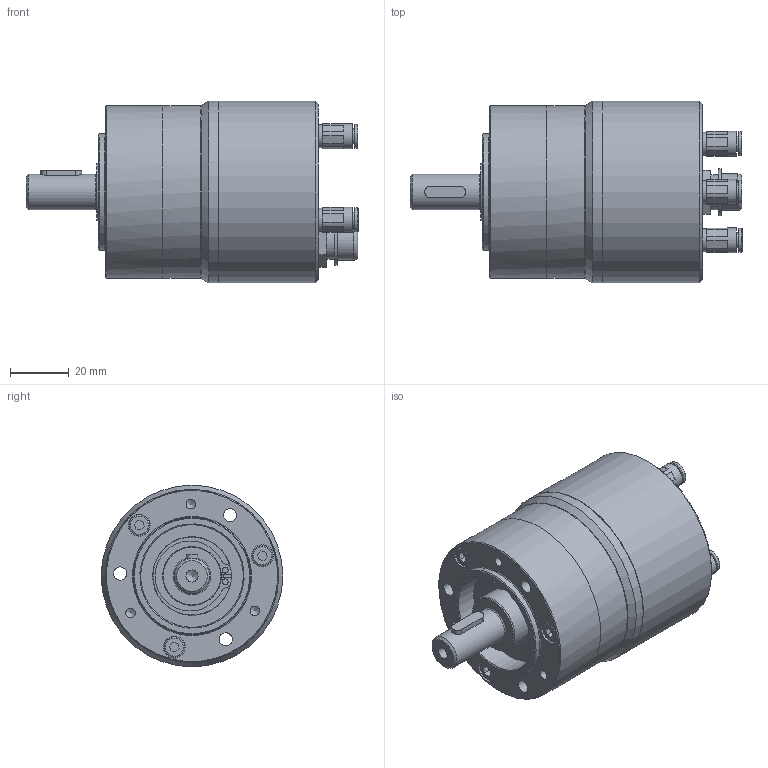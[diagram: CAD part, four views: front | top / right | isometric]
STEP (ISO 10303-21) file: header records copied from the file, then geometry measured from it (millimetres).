
FILE_DESCRIPTION(/* description */ (''),/* implementation_level */ '2;1');
FILE_NAME(/* name */ 'G:\02 CAD Dateien\02 - CAD Schrittmotoren BPS\01 - Standart Produkte\BPS 1620-23\Verkaufsunterlagen\STEP ab JULI 2017\500-16-310e Schrittmotor BPS-1620-S5.stp',/* time_stamp */ '2017-12-19T15:03:54+01:00',/* author */ ('RSc'),/* organization */ (''),/* preprocessor_version */ 'ST-DEVELOPER v16.1',/* originating_system */ 'Autodesk Inventor 2016',/* authorisation */ '');
FILE_SCHEMA (('AUTOMOTIVE_DESIGN { 1 0 10303 214 3 1 1 }'));
Length unit declared in the file: millimetre
Products named in the file (1): 500-16-310e Schrittmotor BPS-1620-S5
Bounding box: 113.3 x 62 x 62 mm (x, y, z)
Volume: 204056.9 mm3; surface area: 36461.4 mm2
Topology: 12 solids, 24 shells, 391 faces, 937 edges, 612 vertices
Faces by surface type: plane 188, cylinder 84, cone 39, torus 38, bspline 31, sphere 11
Full cylindrical faces by diameter (mm): 1 x10, 2 x2, 3 x1, 3.242 x3, 4 x6, 4.134 x1, 4.5 x6, 5.2 x3, 7 x3, 7.5 x3, 7.8 x3, 8.1 x3, 8.4 x1, 8.5 x3, 9 x1, 9.4 x1, 12 x2, 12.5 x1, 16 x1, 19 x1, 20 x3, 25.325 x1, 26.657 x1, 26.857 x1, 35 x1, 35.343 x1, 36.675 x1, 38.675 x1, 40 x1, 42 x2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
Entity records: 11069 total; most frequent: CARTESIAN_POINT 2250, DIRECTION 1711, ORIENTED_EDGE 1572, EDGE_CURVE 764, AXIS2_PLACEMENT_3D 700, EDGE_LOOP 587, VERTEX_POINT 559, ADVANCED_FACE 391
